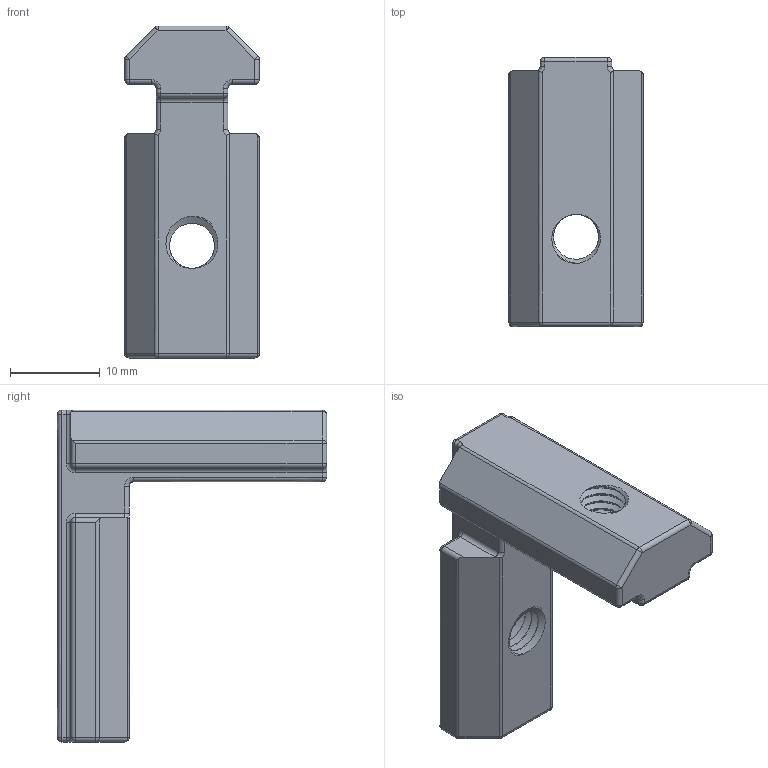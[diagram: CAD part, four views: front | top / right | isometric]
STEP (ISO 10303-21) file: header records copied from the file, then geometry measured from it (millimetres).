
FILE_DESCRIPTION (( 'STEP AP203' ), '1' );
FILE_NAME ('2030.STEP', '2016-01-21T09:44:41', ( '' ), ( '' ), 'SwSTEP 2.0', 'SolidWorks 2014', '' );
FILE_SCHEMA (( 'CONFIG_CONTROL_DESIGN' ));
Length unit declared in the file: millimetre
Products named in the file (1): 2030
Bounding box: 15 x 30 x 37 mm (x, y, z)
Volume: 5143.2 mm3; surface area: 2940.9 mm2
Topology: 1 solids, 1 shells, 156 faces, 388 edges, 214 vertices
Faces by surface type: cylinder 84, plane 24, sphere 22, torus 14, bspline 12
Entity records: 6643 total; most frequent: CARTESIAN_POINT 3293, ORIENTED_EDGE 736, DIRECTION 654, EDGE_CURVE 368, AXIS2_PLACEMENT_3D 259, VERTEX_POINT 214, EDGE_LOOP 160, FACE_OUTER_BOUND 156
